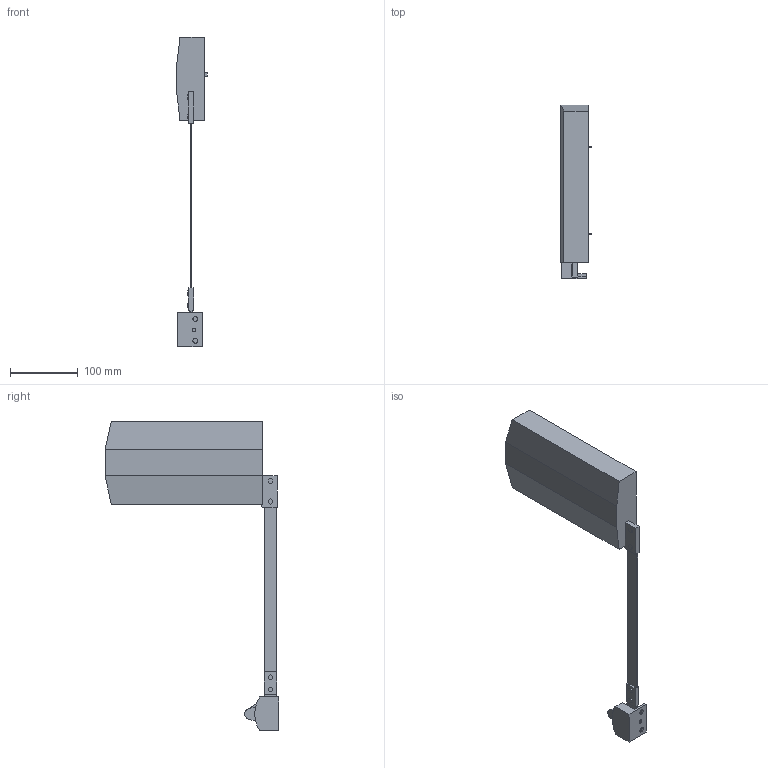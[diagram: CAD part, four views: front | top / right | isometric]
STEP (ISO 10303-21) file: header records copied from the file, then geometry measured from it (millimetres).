
FILE_DESCRIPTION (( 'STEP AP214' ), '1' );
FILE_NAME ('F152147844_KINVARO F20 SET WITH BKT_TYP 6C_R_CLOSED.step', '2021-02-17T08:11:56', ( '' ), ( '' ), 'SwSTEP 2.0', 'SolidWorks 2019', '' );
FILE_SCHEMA (( 'AUTOMOTIVE_DESIGN' ));
Length unit declared in the file: millimetre
Products named in the file (1): F152147844_KINVARO F20 SET WITH BKT_TYP 6C_R_CLOSED
Bounding box: 45.35 x 255.03 x 455.73 mm (x, y, z)
Volume: 1136719.1 mm3; surface area: 107197.5 mm2
Topology: 1 solids, 1 shells, 119 faces, 294 edges, 196 vertices
Faces by surface type: plane 93, cylinder 20, bspline 6
Entity records: 4280 total; most frequent: CARTESIAN_POINT 1408, ORIENTED_EDGE 588, DIRECTION 552, EDGE_CURVE 294, LINE 240, VECTOR 240, VERTEX_POINT 196, AXIS2_PLACEMENT_3D 156
